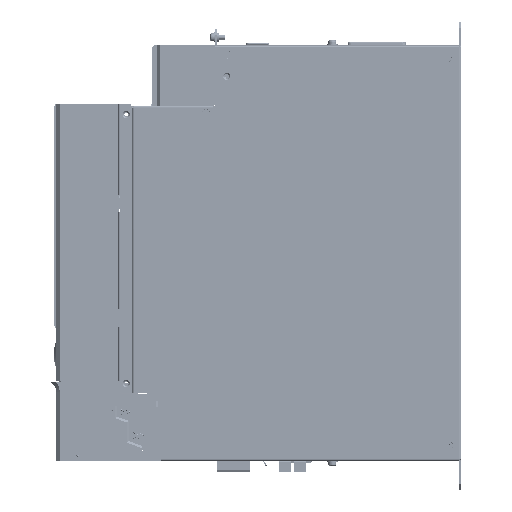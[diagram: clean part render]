
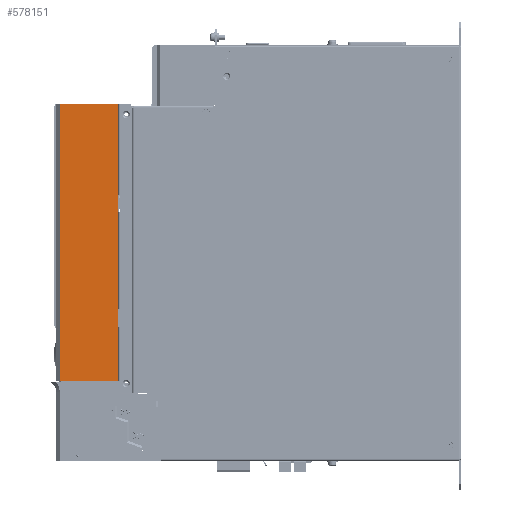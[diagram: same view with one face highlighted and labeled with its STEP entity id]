
A CAD part, left-side view. The second image highlights one B-rep face of the part: STEP entity #578151.
In plain terms, the highlighted planar face has unit normal (-1, 0, 0).
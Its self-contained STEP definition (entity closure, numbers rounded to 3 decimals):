
#562741=DIRECTION('',(0.,-1.,0.));
#562742=VECTOR('',#562741,50.);
#562743=CARTESIAN_POINT('',(-24.75,23.5,0.));
#562744=LINE('',#562743,#562742);
#564673=DIRECTION('',(0.,0.,1.));
#564674=VECTOR('',#564673,236.1);
#564675=CARTESIAN_POINT('',(-24.75,-26.5,0.));
#564676=LINE('',#564675,#564674);
#569304=DIRECTION('',(0.,-1.,0.));
#569305=VECTOR('',#569304,50.);
#569306=CARTESIAN_POINT('',(-24.75,23.5,236.1));
#569307=LINE('',#569306,#569305);
#569381=DIRECTION('',(0.,0.,-1.));
#569382=VECTOR('',#569381,236.1);
#569383=CARTESIAN_POINT('',(-24.75,23.5,236.1));
#569384=LINE('',#569383,#569382);
#571454=CARTESIAN_POINT('',(-24.75,-26.5,0.));
#571455=CARTESIAN_POINT('',(-24.75,-26.5,236.1));
#571456=VERTEX_POINT('',#571454);
#571457=VERTEX_POINT('',#571455);
#571486=CARTESIAN_POINT('',(-24.75,23.5,0.));
#571488=VERTEX_POINT('',#571486);
#571492=CARTESIAN_POINT('',(-24.75,23.5,236.1));
#571493=VERTEX_POINT('',#571492);
#578139=CARTESIAN_POINT('',(-24.75,26.5,0.));
#578140=DIRECTION('',(-1.,0.,0.));
#578141=DIRECTION('',(0.,-1.,0.));
#578142=AXIS2_PLACEMENT_3D('',#578139,#578140,#578141);
#578143=PLANE('',#578142);
#578145=ORIENTED_EDGE('',*,*,#578144,.F.);
#578146=ORIENTED_EDGE('',*,*,#578091,.T.);
#578147=ORIENTED_EDGE('',*,*,#574522,.F.);
#578148=ORIENTED_EDGE('',*,*,#573064,.F.);
#578149=EDGE_LOOP('',(#578145,#578146,#578147,#578148));
#578150=FACE_OUTER_BOUND('',#578149,.F.);
#578151=ADVANCED_FACE('',(#578150),#578143,.T.);
#573064=EDGE_CURVE('',#571488,#571456,#562744,.T.);
#574522=EDGE_CURVE('',#571456,#571457,#564676,.T.);
#578091=EDGE_CURVE('',#571493,#571457,#569307,.T.);
#578144=EDGE_CURVE('',#571493,#571488,#569384,.T.);
